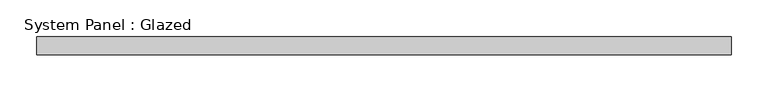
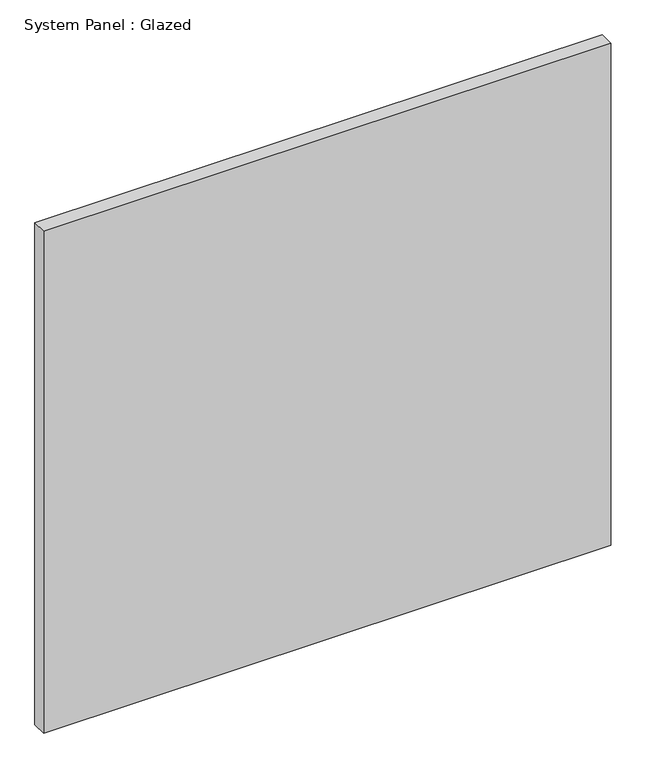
"""IFC4 building model written with IfcOpenShell, lengths in millimetres: plate geometry, System Panel : Glazed."""

from ifc_helpers import new_model, si_unit, origin, origin_with_axes, place, context, project, spatial, polyline, outline, extrude, source, transform, mapped, element, save


def system_panel_glazed_04ab99c2(model_context):
    return source(origin(), model_context, "Body", "SweptSolid", [
        extrude(outline(polyline([(475.0, 24.5), (-475.0, 24.5), (-475.0, 49.5), (475.0, 49.5), (475.0, 24.5)])), origin_with_axes(), (0.0, 0.0, 1.0), 888.2560116),
    ])


if __name__ == "__main__":
    model = new_model("IFC4")
    model_context = context("Model", 3, world=origin())
    ifc_project = project(units=[si_unit("LENGTHUNIT", "METRE", prefix="MILLI")], contexts=[model_context])
    site = spatial("IfcSite", under=ifc_project)
    building = spatial("IfcBuilding", under=site)
    placement = place(None, origin())
    system_panel_glazed_shape = system_panel_glazed_04ab99c2(model_context)
    element("IfcPlate", 1, ObjectType="System Panel : Glazed", at=placement, inside=building, context=model_context, shape_type="MappedRepresentation", body=[
        mapped(system_panel_glazed_shape, transform((0.0, 0.0, 0.0), x_axis=(1.0, 0.0, 0.0), y_axis=(0.0, 1.0, 0.0), z_axis=(0.0, 0.0, 1.0))),
    ])
    save(model, "model.ifc")
